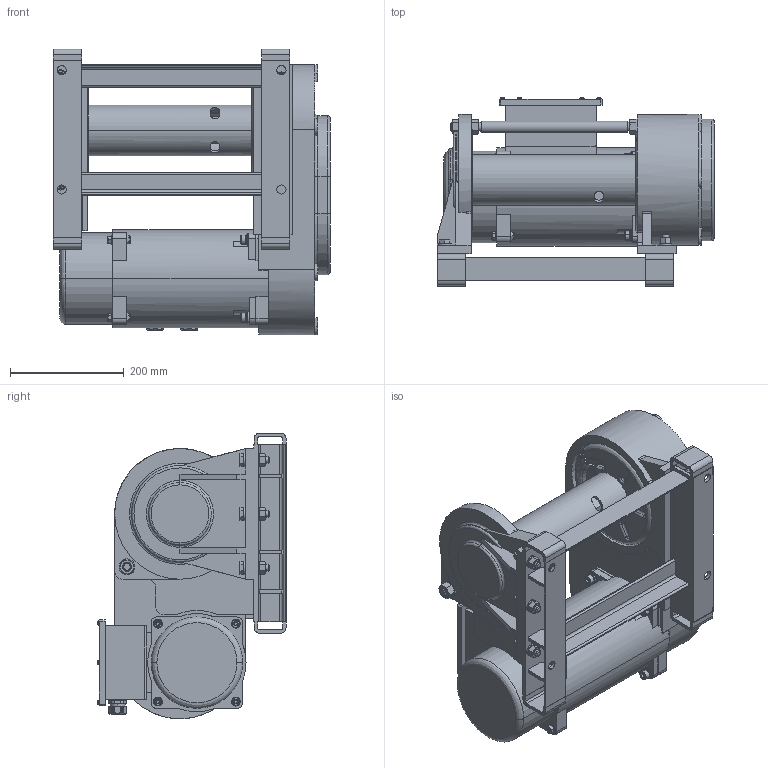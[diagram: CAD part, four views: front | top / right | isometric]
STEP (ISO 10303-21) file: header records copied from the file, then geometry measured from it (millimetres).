
FILE_DESCRIPTION( (''), '2;1');
FILE_NAME ('BMW-503.stp','2023-05-15T16:42:26',(''),(''),'spGate 19.8.2 (****-****-****-****)','','');
FILE_SCHEMA (('AUTOMOTIVE_DESIGN'));
Length unit declared in the file: millimetre
Products named in the file (2): Assembly; BMW-503-prt0
Assembly tree (1 placements, depth 2):
  Assembly
    BMW-503-prt0
Bounding box: 489 x 332.74 x 502.8 mm (x, y, z)
Volume: 25061854.7 mm3; surface area: 1571504.1 mm2
Topology: 1 solids, 1 shells, 2209 faces, 5748 edges, 3591 vertices
Faces by surface type: plane 1224, cylinder 584, bspline 321, sphere 80
Entity records: 119055 total; most frequent: CARTESIAN_POINT 21594, ORIENTED_EDGE 11344, DIRECTION 10629, COLOUR_RGB 7882, PRESENTATION_STYLE_ASSIGNMENT 7882, STYLED_ITEM 7882, EDGE_CURVE 5672, DRAUGHTING_PRE_DEFINED_CURVE_FONT 5672
